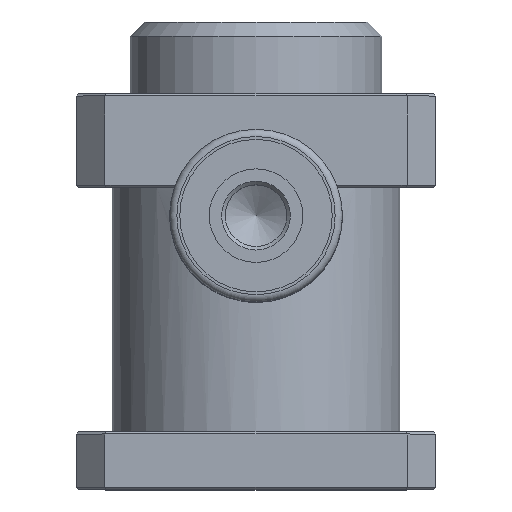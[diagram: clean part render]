
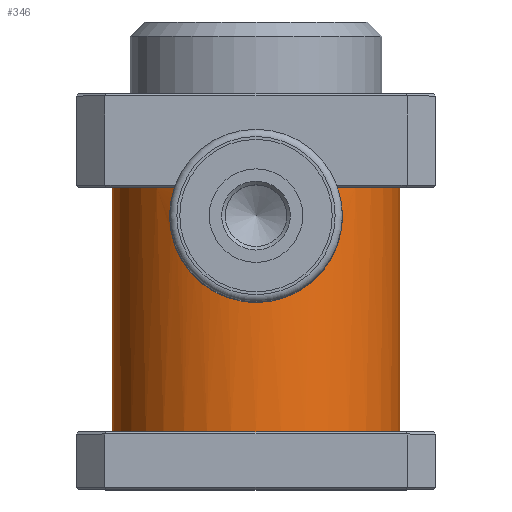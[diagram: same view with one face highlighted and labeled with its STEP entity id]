
A CAD part, top view. The second image highlights one B-rep face of the part: STEP entity #346.
In plain terms, the highlighted cylindrical face has radius 20 mm (diameter 40 mm), a full revolution.
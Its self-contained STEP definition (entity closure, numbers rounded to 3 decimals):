
#346=ADVANCED_FACE('',(#587,#588),#589,.T.);
#587=FACE_OUTER_BOUND('',#966,.T.);
#588=FACE_OUTER_BOUND('',#967,.T.);
#589=CYLINDRICAL_SURFACE('',#968,20.0);
#966=EDGE_LOOP('',(#1333));
#967=EDGE_LOOP('',(#1334,#1335,#1336,#1337));
#968=AXIS2_PLACEMENT_3D('',#1338,#1339,#1340);
#1333=ORIENTED_EDGE('',*,*,#2099,.F.);
#1334=ORIENTED_EDGE('',*,*,#2100,.T.);
#1335=ORIENTED_EDGE('',*,*,#2101,.T.);
#1336=ORIENTED_EDGE('',*,*,#2102,.T.);
#1337=ORIENTED_EDGE('',*,*,#2103,.F.);
#1338=CARTESIAN_POINT('',(0.0,0.0,0.0));
#1339=DIRECTION('',(0.0,1.0,0.0));
#1340=DIRECTION('',(0.0,0.0,-1.0));
#2099=EDGE_CURVE('',#2384,#2384,#2385,.T.);
#2100=EDGE_CURVE('',#2386,#2387,#2388,.T.);
#2101=EDGE_CURVE('',#2387,#2389,#2390,.T.);
#2102=EDGE_CURVE('',#2389,#2391,#2392,.T.);
#2103=EDGE_CURVE('',#2386,#2391,#2393,.T.);
#2384=VERTEX_POINT('',#2797);
#2385=CIRCLE('',#2798,20.0);
#2386=VERTEX_POINT('',#2799);
#2387=VERTEX_POINT('',#2800);
#2388=B_SPLINE_CURVE_WITH_KNOTS('',3,(#2801,#2802,#2803,#2804,#2805,#2806,#2807,#2808,#2809,#2810,#2811,#2812,#2813,#2814,#2815,#2816,#2817,#2818,#2819,#2820,#2821,#2822,#2823,#2824,#2825,#2826,#2827,#2828,#2829,#2830,#2831,#2832,#2833,#2834,#2835,#2836,#2837,#2838,#2839,#2840,#2841,#2842,#2843,#2844),.UNSPECIFIED.,.F.,.F.,(4,1,1,1,1,1,1,1,1,1,1,1,1,1,1,1,1,1,1,1,1,1,1,1,1,1,1,1,1,1,1,1,1,1,1,1,1,1,1,1,1,4),(0.0,0.007,0.014,0.021,0.028,0.035,0.042,0.049,0.056,0.062,0.094,0.125,0.156,0.188,0.218,0.25,0.313,0.375,0.406,0.437,0.468,0.5,0.5,0.531,0.562,0.593,0.625,0.656,0.687,0.719,0.75,0.781,0.812,0.844,0.875,0.906,0.937,0.95,0.962,0.975,0.987,1.0),.UNSPECIFIED.);
#2389=VERTEX_POINT('',#2845);
#2390=CIRCLE('',#2846,20.0);
#2391=VERTEX_POINT('',#2847);
#2392=B_SPLINE_CURVE_WITH_KNOTS('',3,(#2848,#2849,#2850,#2851,#2852,#2853,#2854,#2855,#2856,#2857,#2858,#2859,#2860,#2861,#2862,#2863,#2864,#2865,#2866,#2867,#2868,#2869,#2870,#2871,#2872,#2873,#2874,#2875,#2876,#2877,#2878,#2879,#2880,#2881,#2882,#2883,#2884,#2885,#2886,#2887,#2888,#2889,#2890),.UNSPECIFIED.,.F.,.F.,(4,1,1,1,1,1,1,1,1,1,1,1,1,1,1,1,1,1,1,1,1,1,1,1,1,1,1,1,1,1,1,1,1,1,1,1,1,1,1,1,4),(0.0,0.007,0.014,0.021,0.028,0.035,0.042,0.049,0.056,0.062,0.094,0.125,0.156,0.188,0.218,0.25,0.313,0.375,0.406,0.437,0.468,0.5,0.531,0.562,0.593,0.625,0.656,0.687,0.719,0.75,0.781,0.812,0.844,0.875,0.906,0.937,0.95,0.962,0.974,0.987,1.0),.UNSPECIFIED.);
#2393=CIRCLE('',#2891,20.0);
#2797=CARTESIAN_POINT('',(0.0,8.0,-20.0));
#2798=AXIS2_PLACEMENT_3D('',#3815,#3816,#3817);
#2799=CARTESIAN_POINT('',(-11.314,42.,-16.492));
#2800=CARTESIAN_POINT('',(11.314,42.0,-16.492));
#2801=CARTESIAN_POINT('',(-11.314,42.,-16.492));
#2802=CARTESIAN_POINT('',(-11.349,41.897,-16.468));
#2803=CARTESIAN_POINT('',(-11.42,41.692,-16.419));
#2804=CARTESIAN_POINT('',(-11.515,41.382,-16.353));
#2805=CARTESIAN_POINT('',(-11.602,41.071,-16.291));
#2806=CARTESIAN_POINT('',(-11.68,40.758,-16.235));
#2807=CARTESIAN_POINT('',(-11.75,40.445,-16.185));
#2808=CARTESIAN_POINT('',(-11.811,40.131,-16.14));
#2809=CARTESIAN_POINT('',(-11.863,39.815,-16.102));
#2810=CARTESIAN_POINT('',(-11.907,39.499,-16.069));
#2811=CARTESIAN_POINT('',(-11.985,38.805,-16.011));
#2812=CARTESIAN_POINT('',(-12.027,37.718,-15.98));
#2813=CARTESIAN_POINT('',(-11.903,36.261,-16.073));
#2814=CARTESIAN_POINT('',(-11.606,34.835,-16.291));
#2815=CARTESIAN_POINT('',(-11.146,33.479,-16.61));
#2816=CARTESIAN_POINT('',(-10.534,32.193,-17.007));
#2817=CARTESIAN_POINT('',(-9.537,30.613,-17.599));
#2818=CARTESIAN_POINT('',(-7.969,28.884,-18.392));
#2819=CARTESIAN_POINT('',(-6.027,27.548,-19.106));
#2820=CARTESIAN_POINT('',(-4.297,26.764,-19.549));
#2821=CARTESIAN_POINT('',(-2.915,26.329,-19.804));
#2822=CARTESIAN_POINT('',(-1.481,26.061,-19.963));
#2823=CARTESIAN_POINT('',(-0.497,26.,-20.));
#2824=CARTESIAN_POINT('',(0.481,26.,-20.));
#2825=CARTESIAN_POINT('',(1.463,26.059,-19.964));
#2826=CARTESIAN_POINT('',(2.895,26.325,-19.806));
#2827=CARTESIAN_POINT('',(4.279,26.758,-19.553));
#2828=CARTESIAN_POINT('',(5.584,27.347,-19.22));
#2829=CARTESIAN_POINT('',(6.801,28.079,-18.822));
#2830=CARTESIAN_POINT('',(7.911,28.941,-18.381));
#2831=CARTESIAN_POINT('',(8.909,29.919,-17.916));
#2832=CARTESIAN_POINT('',(9.785,31.008,-17.451));
#2833=CARTESIAN_POINT('',(10.53,32.187,-17.01));
#2834=CARTESIAN_POINT('',(11.141,33.466,-16.614));
#2835=CARTESIAN_POINT('',(11.601,34.818,-16.294));
#2836=CARTESIAN_POINT('',(11.9,36.244,-16.075));
#2837=CARTESIAN_POINT('',(12.027,37.702,-15.98));
#2838=CARTESIAN_POINT('',(11.983,38.878,-16.013));
#2839=CARTESIAN_POINT('',(11.877,39.744,-16.091));
#2840=CARTESIAN_POINT('',(11.78,40.314,-16.163));
#2841=CARTESIAN_POINT('',(11.654,40.881,-16.254));
#2842=CARTESIAN_POINT('',(11.501,41.445,-16.363));
#2843=CARTESIAN_POINT('',(11.376,41.814,-16.449));
#2844=CARTESIAN_POINT('',(11.314,42.,-16.492));
#2845=CARTESIAN_POINT('',(11.314,42.0,16.492));
#2846=AXIS2_PLACEMENT_3D('',#3818,#3819,#3820);
#2847=CARTESIAN_POINT('',(-11.314,42.0,16.492));
#2848=CARTESIAN_POINT('',(11.314,42.,16.492));
#2849=CARTESIAN_POINT('',(11.349,41.897,16.468));
#2850=CARTESIAN_POINT('',(11.42,41.692,16.419));
#2851=CARTESIAN_POINT('',(11.515,41.382,16.353));
#2852=CARTESIAN_POINT('',(11.602,41.071,16.291));
#2853=CARTESIAN_POINT('',(11.68,40.758,16.235));
#2854=CARTESIAN_POINT('',(11.75,40.445,16.185));
#2855=CARTESIAN_POINT('',(11.811,40.131,16.14));
#2856=CARTESIAN_POINT('',(11.863,39.815,16.102));
#2857=CARTESIAN_POINT('',(11.907,39.499,16.069));
#2858=CARTESIAN_POINT('',(11.985,38.805,16.011));
#2859=CARTESIAN_POINT('',(12.027,37.718,15.98));
#2860=CARTESIAN_POINT('',(11.903,36.261,16.073));
#2861=CARTESIAN_POINT('',(11.606,34.835,16.291));
#2862=CARTESIAN_POINT('',(11.146,33.479,16.61));
#2863=CARTESIAN_POINT('',(10.534,32.193,17.007));
#2864=CARTESIAN_POINT('',(9.537,30.613,17.599));
#2865=CARTESIAN_POINT('',(7.969,28.884,18.392));
#2866=CARTESIAN_POINT('',(6.027,27.548,19.106));
#2867=CARTESIAN_POINT('',(4.297,26.764,19.549));
#2868=CARTESIAN_POINT('',(2.915,26.329,19.804));
#2869=CARTESIAN_POINT('',(1.481,26.061,19.963));
#2870=CARTESIAN_POINT('',(0.015,25.97,20.018));
#2871=CARTESIAN_POINT('',(-1.449,26.058,19.965));
#2872=CARTESIAN_POINT('',(-2.884,26.322,19.808));
#2873=CARTESIAN_POINT('',(-4.269,26.754,19.555));
#2874=CARTESIAN_POINT('',(-5.575,27.342,19.222));
#2875=CARTESIAN_POINT('',(-6.793,28.074,18.825));
#2876=CARTESIAN_POINT('',(-7.905,28.935,18.384));
#2877=CARTESIAN_POINT('',(-8.904,29.914,17.919));
#2878=CARTESIAN_POINT('',(-9.781,31.002,17.453));
#2879=CARTESIAN_POINT('',(-10.527,32.182,17.012));
#2880=CARTESIAN_POINT('',(-11.139,33.462,16.615));
#2881=CARTESIAN_POINT('',(-11.6,34.814,16.295));
#2882=CARTESIAN_POINT('',(-11.9,36.241,16.075));
#2883=CARTESIAN_POINT('',(-12.027,37.7,15.98));
#2884=CARTESIAN_POINT('',(-11.983,38.876,16.013));
#2885=CARTESIAN_POINT('',(-11.878,39.743,16.091));
#2886=CARTESIAN_POINT('',(-11.78,40.313,16.163));
#2887=CARTESIAN_POINT('',(-11.654,40.88,16.254));
#2888=CARTESIAN_POINT('',(-11.501,41.445,16.363));
#2889=CARTESIAN_POINT('',(-11.377,41.814,16.449));
#2890=CARTESIAN_POINT('',(-11.314,42.,16.492));
#2891=AXIS2_PLACEMENT_3D('',#3821,#3822,#3823);
#3815=CARTESIAN_POINT('',(0.0,8.0,0.0));
#3816=DIRECTION('',(0.0,-1.0,0.0));
#3817=DIRECTION('',(0.0,0.0,-1.0));
#3818=CARTESIAN_POINT('',(0.0,42.0,0.0));
#3819=DIRECTION('',(0.0,-1.0,0.0));
#3820=DIRECTION('',(0.566,0.0,-0.825));
#3821=CARTESIAN_POINT('',(0.0,42.0,0.0));
#3822=DIRECTION('',(0.0,1.0,0.0));
#3823=DIRECTION('',(-0.566,0.0,-0.825));
